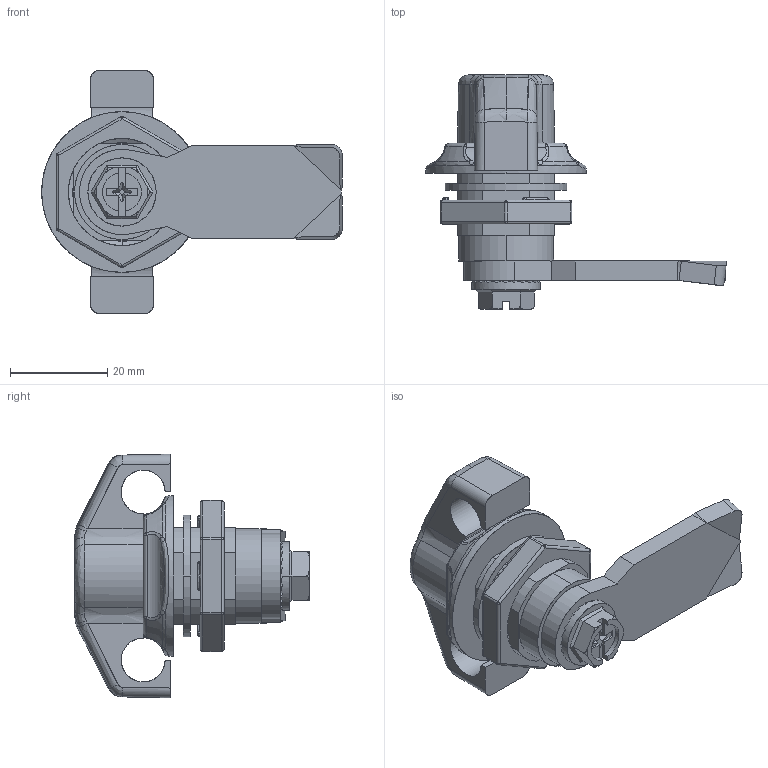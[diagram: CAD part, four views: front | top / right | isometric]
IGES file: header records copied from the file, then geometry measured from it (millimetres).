
Start section: SolidWorks IGES file using analytic representation for surfaces
Global section: file name: E:\DATA FOLDER FOR WEB-2015\'B' SECTION\Lock Without Key\Final IGS\DMWL3-L-MR.IGS; native system: SolidWorks 2015; preprocessor: SolidWorks 2015; author: Administrator; date: 161217.103116; units: millimetre
Bounding box: 61.74 x 48.05 x 50 mm (x, y, z)
Surface area: 10334.2 mm2 (no closed solid volume)
Topology: 0 solids, 0 shells, 283 faces, 2805 edges, 2789 vertices
Faces by surface type: bspline 187, revolution 96
